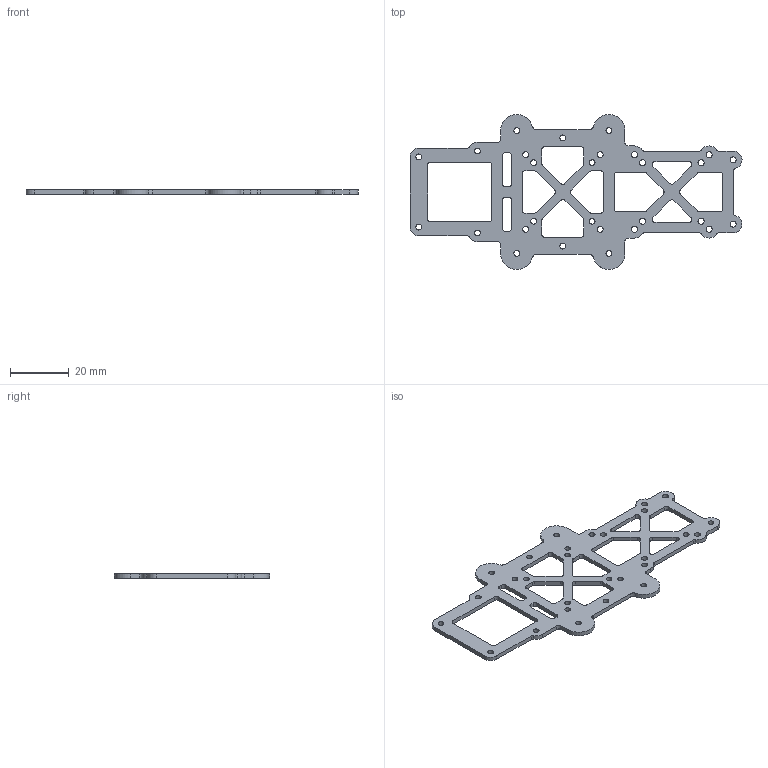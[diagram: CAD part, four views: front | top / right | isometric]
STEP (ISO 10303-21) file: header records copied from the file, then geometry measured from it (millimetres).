
FILE_DESCRIPTION(/* description */ (''),/* implementation_level */ '2;1');
FILE_NAME(/* name */ 'GoFlyPro - 2.5Z - Baseplate-V1.step',/* time_stamp */ '2025-06-09T08:24:50+02:00',/* author */ (''),/* organization */ (''),/* preprocessor_version */ 'ST-DEVELOPER v20.1',/* originating_system */ 'Autodesk Translation Framework v14.10.0.0',/* authorisation */ '');
FILE_SCHEMA (('AUTOMOTIVE_DESIGN { 1 0 10303 214 3 1 1 }'));
Length unit declared in the file: millimetre
Products named in the file (1): GoFlyPro - 2.5Z - Baseplate-V1
Bounding box: 113.5 x 52.99 x 1.5 mm (x, y, z)
Volume: 3677.6 mm3; surface area: 6387.1 mm2
Topology: 1 solids, 1 shells, 176 faces, 522 edges, 348 vertices
Faces by surface type: cylinder 108, plane 68
Full cylindrical faces by diameter (mm): 2 x20, 2.1 x8
Entity records: 6180 total; most frequent: DIRECTION 1092, CARTESIAN_POINT 1047, ORIENTED_EDGE 1044, EDGE_CURVE 522, AXIS2_PLACEMENT_3D 393, VERTEX_POINT 348, LINE 306, VECTOR 306
